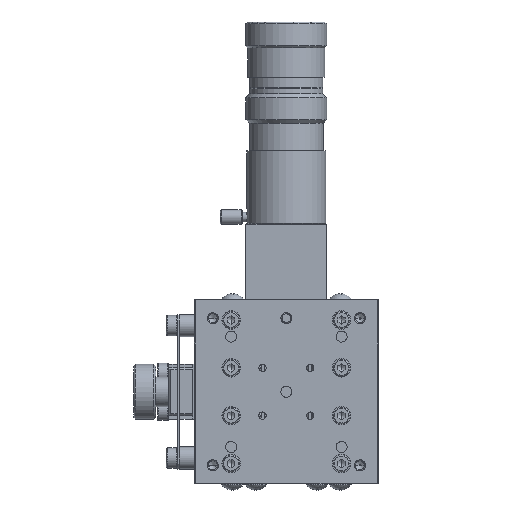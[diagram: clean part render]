
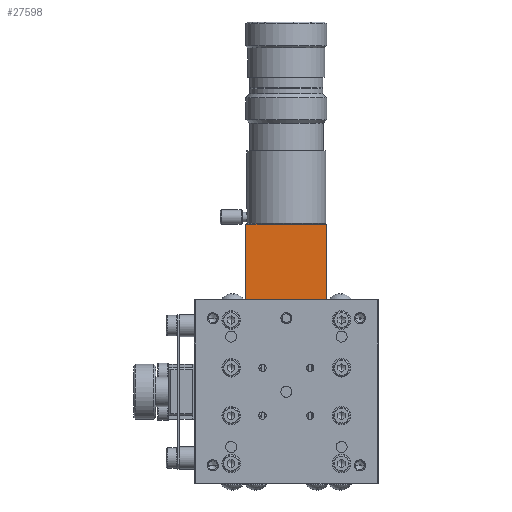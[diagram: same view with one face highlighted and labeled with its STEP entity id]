
A CAD part, top view. The second image highlights one B-rep face of the part: STEP entity #27598.
In plain terms, the highlighted planar face has unit normal (0, 0, 1).
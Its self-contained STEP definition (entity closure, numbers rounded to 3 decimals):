
#3898 = CARTESIAN_POINT ( 'NONE',  ( 11., 45.5, -0.5 ) ) ;
#3900 = DIRECTION ( 'NONE',  ( 1., 0., 0. ) ) ;
#3901 = VECTOR ( 'NONE', #3900, 1000. ) ;
#3902 = CARTESIAN_POINT ( 'NONE',  ( -11., 45.5, -0.5 ) ) ;
#3903 = LINE ( 'NONE', #3902, #3901 ) ;
#3909 = CARTESIAN_POINT ( 'NONE',  ( -11., 45.5, -0.5 ) ) ;
#3951 = DIRECTION ( 'NONE',  ( 0., -1., 0. ) ) ;
#3952 = VECTOR ( 'NONE', #3951, 1000. ) ;
#3953 = CARTESIAN_POINT ( 'NONE',  ( 11., 45.5, -0.5 ) ) ;
#3954 = LINE ( 'NONE', #3953, #3952 ) ;
#4019 = DIRECTION ( 'NONE',  ( 0., -1., 0. ) ) ;
#4020 = VECTOR ( 'NONE', #4019, 1000. ) ;
#4021 = CARTESIAN_POINT ( 'NONE',  ( -11., 45.5, -0.5 ) ) ;
#4022 = LINE ( 'NONE', #4021, #4020 ) ;
#4023 = DIRECTION ( 'NONE',  ( -1., 0., 0. ) ) ;
#4024 = DIRECTION ( 'NONE',  ( 0., 0., 1. ) ) ;
#4025 = CARTESIAN_POINT ( 'NONE',  ( -11., 45.5, -0.5 ) ) ;
#4026 = AXIS2_PLACEMENT_3D ( 'NONE', #4025, #4024, #4023 ) ;
#4027 = PLANE ( 'NONE',  #4026 ) ;
#4028 = FACE_OUTER_BOUND ( 'NONE', #27599, .T. ) ;
#22004 = VERTEX_POINT ( 'NONE', #41333 ) ;
#22017 = VERTEX_POINT ( 'NONE', #41368 ) ;
#22019 = EDGE_CURVE ( 'NONE', #22004, #22017, #41367, .T. ) ;
#27493 = VERTEX_POINT ( 'NONE', #3909 ) ;
#27497 = EDGE_CURVE ( 'NONE', #27493, #27499, #3903, .T. ) ;
#27499 = VERTEX_POINT ( 'NONE', #3898 ) ;
#27557 = EDGE_CURVE ( 'NONE', #27499, #22017, #3954, .T. ) ;
#27598 = ADVANCED_FACE ( 'NONE', ( #4028 ), #4027, .T. ) ;
#27599 = EDGE_LOOP ( 'NONE', ( #27601, #27605, #27607, #27610 ) ) ;
#27601 = ORIENTED_EDGE ( 'NONE', *, *, #27602, .T. ) ;
#27602 = EDGE_CURVE ( 'NONE', #27493, #22004, #4022, .T. ) ;
#27605 = ORIENTED_EDGE ( 'NONE', *, *, #22019, .T. ) ;
#27607 = ORIENTED_EDGE ( 'NONE', *, *, #27557, .F. ) ;
#27610 = ORIENTED_EDGE ( 'NONE', *, *, #27497, .F. ) ;
#41333 = CARTESIAN_POINT ( 'NONE',  ( -11., 25., -0.5 ) ) ;
#41364 = DIRECTION ( 'NONE',  ( 1., 0., 0. ) ) ;
#41365 = VECTOR ( 'NONE', #41364, 1000. ) ;
#41366 = CARTESIAN_POINT ( 'NONE',  ( -11.001, 25., -0.5 ) ) ;
#41367 = LINE ( 'NONE', #41366, #41365 ) ;
#41368 = CARTESIAN_POINT ( 'NONE',  ( 11., 25., -0.5 ) ) ;
